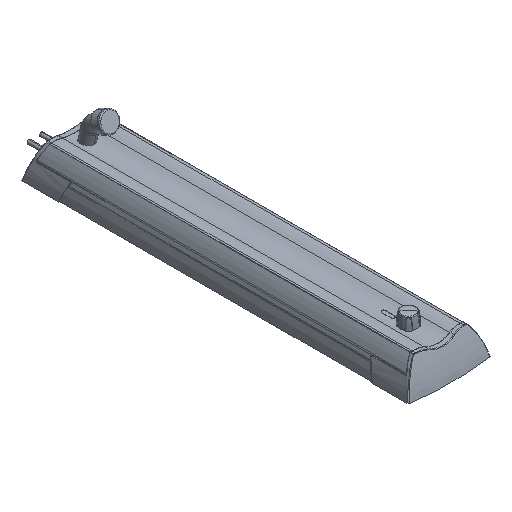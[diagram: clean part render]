
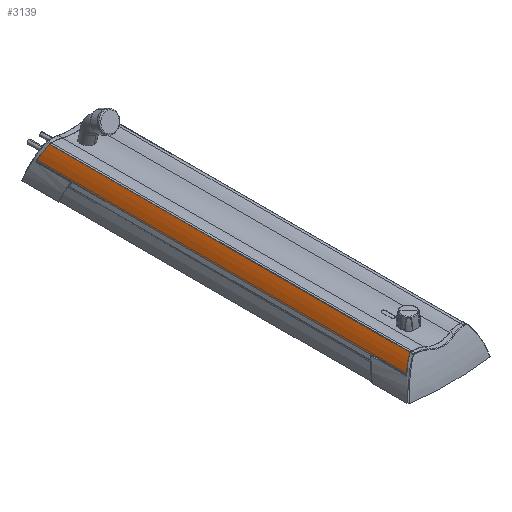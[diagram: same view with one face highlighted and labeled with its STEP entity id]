
A CAD part, isometric view. The second image highlights one B-rep face of the part: STEP entity #3139.
In plain terms, the highlighted cylindrical face has radius 199.92 mm (diameter 399.839 mm), a partial arc.
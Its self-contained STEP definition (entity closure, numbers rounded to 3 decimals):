
#253 = LINE ( 'NONE', #2565, #9752 ) ;
#1075 = FACE_OUTER_BOUND ( 'NONE', #4040, .T. ) ;
#1157 = CARTESIAN_POINT ( 'NONE',  ( 70.5, -645.908, -30.851 ) ) ;
#1476 = CARTESIAN_POINT ( 'NONE',  ( -109.677, -530.592, 55.775 ) ) ;
#1634 = DIRECTION ( 'NONE',  ( 0., 1., 0. ) ) ;
#1986 = CARTESIAN_POINT ( 'NONE',  ( -93.627, -519.594, 84.482 ) ) ;
#2077 = AXIS2_PLACEMENT_3D ( 'NONE', #1157, #7428, #8320 ) ;
#2115 = VECTOR ( 'NONE', #9155, 1000. ) ;
#2565 = CARTESIAN_POINT ( 'NONE',  ( -109.677, -645.908, 55.775 ) ) ;
#3139 = ADVANCED_FACE ( 'NONE', ( #1075 ), #10172, .T. ) ;
#3543 = CARTESIAN_POINT ( 'NONE',  ( -83.079, 622.929, 97.139 ) ) ;
#3796 = CARTESIAN_POINT ( 'NONE',  ( -83.079, -514.745, 97.139 ) ) ;
#3806 = CARTESIAN_POINT ( 'NONE',  ( -83.079, -645.908, 97.139 ) ) ;
#4040 = EDGE_LOOP ( 'NONE', ( #4390, #8528, #4052, #10732 ) ) ;
#4052 = ORIENTED_EDGE ( 'NONE', *, *, #6871, .T. ) ;
#4349 = CARTESIAN_POINT ( 'NONE',  ( -83.079, -514.745, 97.139 ) ) ;
#4390 = ORIENTED_EDGE ( 'NONE', *, *, #5009, .F. ) ;
#4560 = CARTESIAN_POINT ( 'NONE',  ( -83.079, 622.929, 97.139 ) ) ;
#5009 = EDGE_CURVE ( 'NONE', #9216, #8543, #253, .T. ) ;
#5295 = CARTESIAN_POINT ( 'NONE',  ( -102.538, 633.086, 70.624 ) ) ;
#6399 = VERTEX_POINT ( 'NONE', #4560 ) ;
#6871 = EDGE_CURVE ( 'NONE', #7923, #6399, #9242, .T. ) ;
#7095 = EDGE_CURVE ( 'NONE', #9216, #7923, #9972, .T. ) ;
#7428 = DIRECTION ( 'NONE',  ( 0., 1., 0. ) ) ;
#7923 = VERTEX_POINT ( 'NONE', #4349 ) ;
#8060 =( BOUNDED_CURVE ( )  B_SPLINE_CURVE ( 3, ( #11474, #5295, #8901, #3543 ),
 .UNSPECIFIED., .F., .T. ) 
 B_SPLINE_CURVE_WITH_KNOTS ( ( 4, 4 ),
 ( 2.019, 2.266 ),
 .UNSPECIFIED. ) 
 CURVE ( )  GEOMETRIC_REPRESENTATION_ITEM ( )  RATIONAL_B_SPLINE_CURVE ( ( 1., 0.995, 0.995, 1. ) ) 
 REPRESENTATION_ITEM ( '' )  );
#8257 = CARTESIAN_POINT ( 'NONE',  ( -102.538, -524.903, 70.624 ) ) ;
#8320 = DIRECTION ( 'NONE',  ( 1., 0., 0. ) ) ;
#8528 = ORIENTED_EDGE ( 'NONE', *, *, #7095, .T. ) ;
#8543 = VERTEX_POINT ( 'NONE', #8623 ) ;
#8623 = CARTESIAN_POINT ( 'NONE',  ( -109.677, 638.775, 55.775 ) ) ;
#8847 = EDGE_CURVE ( 'NONE', #8543, #6399, #8060, .T. ) ;
#8901 = CARTESIAN_POINT ( 'NONE',  ( -93.627, 627.777, 84.482 ) ) ;
#9145 = CARTESIAN_POINT ( 'NONE',  ( -109.677, -530.592, 55.775 ) ) ;
#9155 = DIRECTION ( 'NONE',  ( 0., 1., 0. ) ) ;
#9216 = VERTEX_POINT ( 'NONE', #1476 ) ;
#9242 = LINE ( 'NONE', #3806, #2115 ) ;
#9752 = VECTOR ( 'NONE', #1634, 1000. ) ;
#9972 =( BOUNDED_CURVE ( )  B_SPLINE_CURVE ( 3, ( #9145, #8257, #1986, #3796 ),
 .UNSPECIFIED., .F., .T. ) 
 B_SPLINE_CURVE_WITH_KNOTS ( ( 4, 4 ),
 ( 5.161, 5.407 ),
 .UNSPECIFIED. ) 
 CURVE ( )  GEOMETRIC_REPRESENTATION_ITEM ( )  RATIONAL_B_SPLINE_CURVE ( ( 1., 0.995, 0.995, 1. ) ) 
 REPRESENTATION_ITEM ( '' )  );
#10172 = CYLINDRICAL_SURFACE ( 'NONE', #2077, 199.92 ) ;
#10732 = ORIENTED_EDGE ( 'NONE', *, *, #8847, .F. ) ;
#11474 = CARTESIAN_POINT ( 'NONE',  ( -109.677, 638.775, 55.775 ) ) ;
